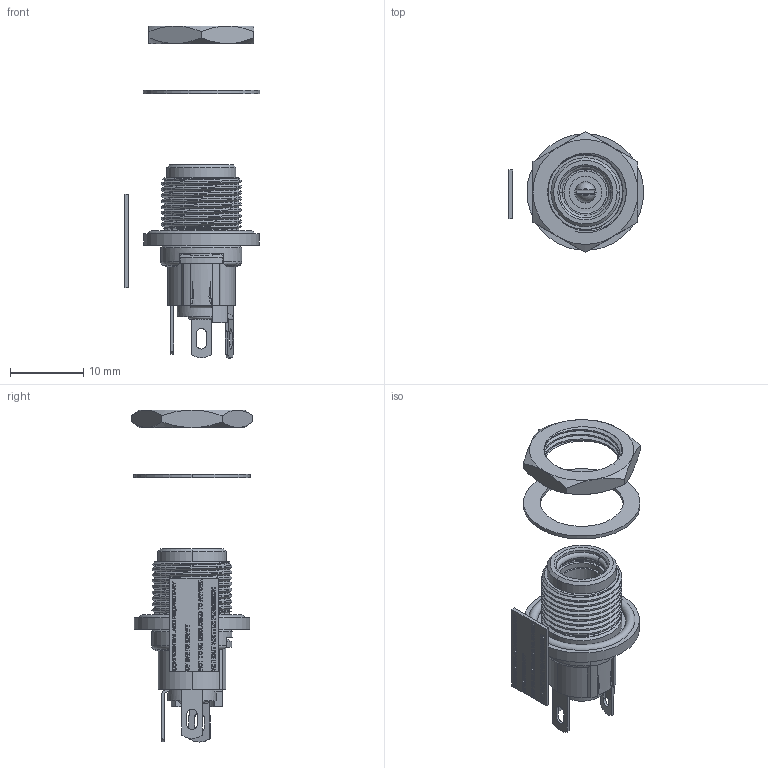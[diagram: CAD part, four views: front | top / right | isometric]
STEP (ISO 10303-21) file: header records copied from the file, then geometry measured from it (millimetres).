
FILE_DESCRIPTION (( 'STEP AP214' ), '1' );
FILE_NAME ('L712AS.STEP', '2010-05-04T16:40:16', ( ' ' ), ( ' ' ), 'SwSTEP 2.0', 'SolidWorks 2008', '' );
FILE_SCHEMA (( 'AUTOMOTIVE_DESIGN' ));
Length unit declared in the file: inch
Products named in the file (1): L712AS
Bounding box: 18.43 x 16.48 x 45.19 mm (x, y, z)
Volume: 1640.3 mm3; surface area: 3075.7 mm2
Topology: 6 solids, 7 shells, 1392 faces, 3685 edges, 2436 vertices
Faces by surface type: plane 849, bspline 335, cylinder 142, cone 42, torus 24
Entity records: 63616 total; most frequent: CARTESIAN_POINT 31406, ORIENTED_EDGE 7370, DIRECTION 5274, EDGE_CURVE 3685, VECTOR 2530, LINE 2530, VERTEX_POINT 2436, EDGE_LOOP 1539
